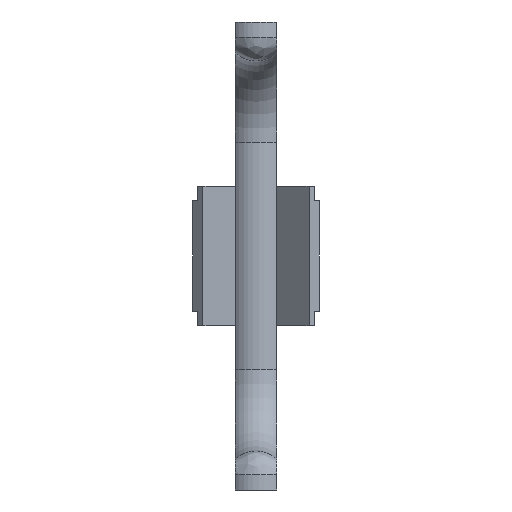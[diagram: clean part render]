
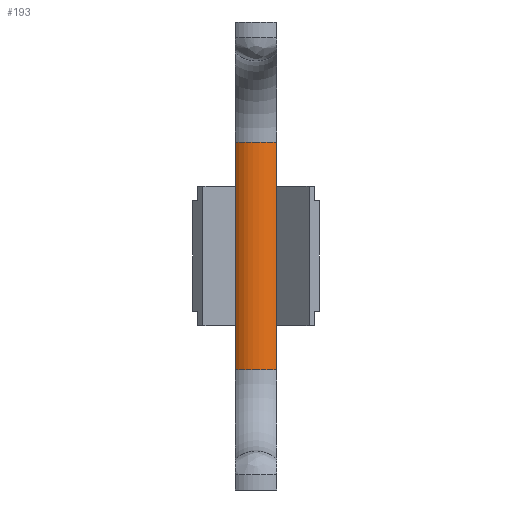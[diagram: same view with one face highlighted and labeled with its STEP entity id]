
A CAD part, front view. The second image highlights one B-rep face of the part: STEP entity #193.
In plain terms, the highlighted cylindrical face has radius 4.6 mm (diameter 9.2 mm), a partial arc.
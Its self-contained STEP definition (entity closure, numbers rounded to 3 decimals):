
#193 = ADVANCED_FACE( '', ( #396 ), #397, .T. );
#396 = FACE_OUTER_BOUND( '', #630, .T. );
#397 = CYLINDRICAL_SURFACE( '', #631, 4.6 );
#630 = EDGE_LOOP( '', ( #1087, #1088, #1089, #1090 ) );
#631 = AXIS2_PLACEMENT_3D( '', #1091, #1092, #1093 );
#1087 = ORIENTED_EDGE( '', *, *, #1508, .T. );
#1088 = ORIENTED_EDGE( '', *, *, #1428, .F. );
#1089 = ORIENTED_EDGE( '', *, *, #1494, .F. );
#1090 = ORIENTED_EDGE( '', *, *, #1333, .T. );
#1091 = CARTESIAN_POINT( '', ( 0., 30.3, 51.99 ) );
#1092 = DIRECTION( '', ( 0., 0., 1. ) );
#1093 = DIRECTION( '', ( -1., 0., 0. ) );
#1333 = EDGE_CURVE( '', #1573, #1571, #1574, .T. );
#1428 = EDGE_CURVE( '', #1734, #1727, #1736, .T. );
#1494 = EDGE_CURVE( '', #1573, #1734, #1826, .T. );
#1508 = EDGE_CURVE( '', #1571, #1727, #1842, .T. );
#1571 = VERTEX_POINT( '', #1911 );
#1573 = VERTEX_POINT( '', #1914 );
#1574 = LINE( '', #1915, #1916 );
#1727 = VERTEX_POINT( '', #2136 );
#1734 = VERTEX_POINT( '', #2146 );
#1736 = LINE( '', #2149, #2150 );
#1826 = CIRCLE( '', #2281, 4.6 );
#1842 = CIRCLE( '', #2303, 4.6 );
#1911 = CARTESIAN_POINT( '', ( -3.1, 26.901, 18.01 ) );
#1914 = CARTESIAN_POINT( '', ( -3.1, 26.901, 51.99 ) );
#1915 = CARTESIAN_POINT( '', ( -3.1, 26.901, 51.99 ) );
#1916 = VECTOR( '', #2401, 1000. );
#2136 = CARTESIAN_POINT( '', ( 3.1, 26.901, 18.01 ) );
#2146 = CARTESIAN_POINT( '', ( 3.1, 26.901, 51.99 ) );
#2149 = CARTESIAN_POINT( '', ( 3.1, 26.901, 51.99 ) );
#2150 = VECTOR( '', #2509, 1000. );
#2281 = AXIS2_PLACEMENT_3D( '', #2578, #2579, #2580 );
#2303 = AXIS2_PLACEMENT_3D( '', #2590, #2591, #2592 );
#2401 = DIRECTION( '', ( 0., 0., -1. ) );
#2509 = DIRECTION( '', ( 0., 0., -1. ) );
#2578 = CARTESIAN_POINT( '', ( 0., 30.3, 51.99 ) );
#2579 = DIRECTION( '', ( 0., 0., 1. ) );
#2580 = DIRECTION( '', ( 1., 0., 0. ) );
#2590 = CARTESIAN_POINT( '', ( 0., 30.3, 18.01 ) );
#2591 = DIRECTION( '', ( 0., 0., 1. ) );
#2592 = DIRECTION( '', ( 1., 0., 0. ) );
